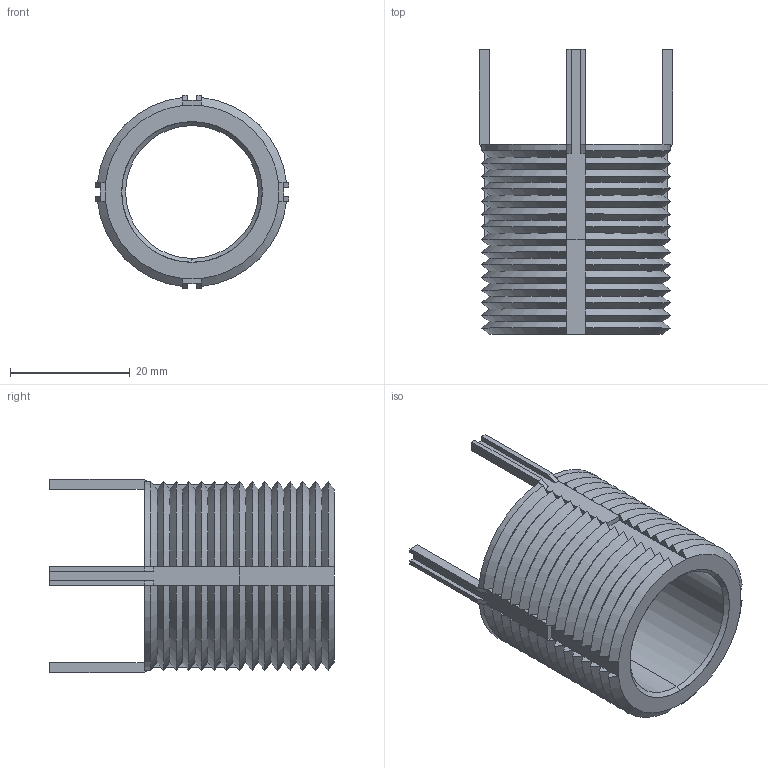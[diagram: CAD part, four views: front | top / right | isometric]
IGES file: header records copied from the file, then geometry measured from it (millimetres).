
Start section: SolidWorks IGES file using analytic representation for surfaces
Global section: file name: C:\Users\IanO\Desktop\TR1575\TR1575_v2_20230420_IGES\TR1575.65910.igs; native system: SolidWorks 2019; preprocessor: SolidWorks 2019; author: IanO; date: 230420.093220; units: inch
Bounding box: 32.32 x 47.62 x 32.32 mm (x, y, z)
Surface area: 8842.9 mm2 (no closed solid volume)
Topology: 0 solids, 0 shells, 300 faces, 1384 edges, 1384 vertices
Faces by surface type: bspline 174, revolution 126
